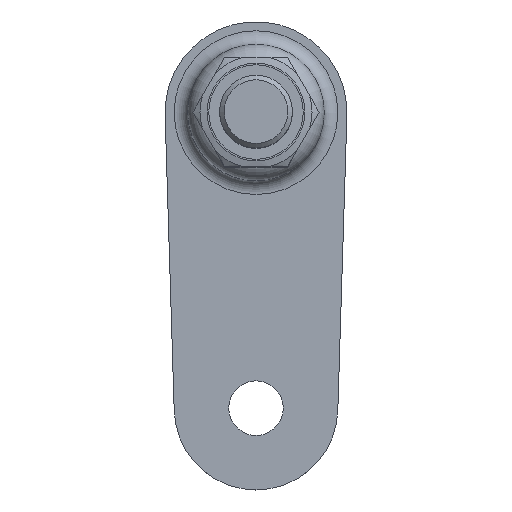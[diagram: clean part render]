
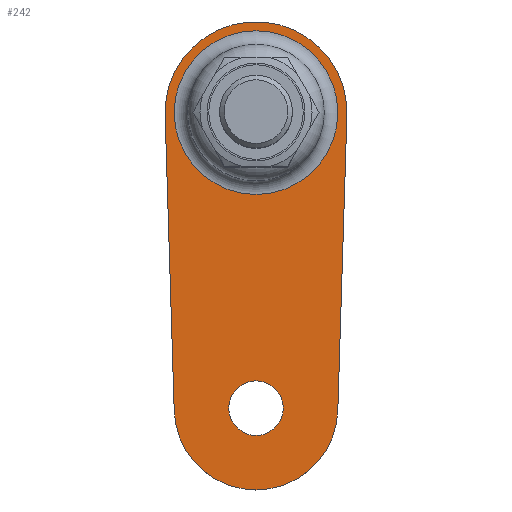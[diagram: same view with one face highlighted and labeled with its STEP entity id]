
A CAD part, top view. The second image highlights one B-rep face of the part: STEP entity #242.
In plain terms, the highlighted planar face has unit normal (0, 0, 1).
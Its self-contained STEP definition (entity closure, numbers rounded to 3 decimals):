
#242=ADVANCED_FACE('',(#503,#504,#505),#506,.T.);
#503=FACE_BOUND('',#801,.T.);
#504=FACE_OUTER_BOUND('',#802,.T.);
#505=FACE_BOUND('',#803,.T.);
#506=PLANE('',#804);
#801=EDGE_LOOP('',(#1320));
#802=EDGE_LOOP('',(#1321,#1322,#1323,#1324));
#803=EDGE_LOOP('',(#1325));
#804=AXIS2_PLACEMENT_3D('',#1326,#1327,#1328);
#1320=ORIENTED_EDGE('',*,*,#1809,.T.);
#1321=ORIENTED_EDGE('',*,*,#1810,.F.);
#1322=ORIENTED_EDGE('',*,*,#1803,.T.);
#1323=ORIENTED_EDGE('',*,*,#1807,.T.);
#1324=ORIENTED_EDGE('',*,*,#1703,.T.);
#1325=ORIENTED_EDGE('',*,*,#1811,.T.);
#1326=CARTESIAN_POINT('',(63.911,-67.09,55.906));
#1327=DIRECTION('',(0.0,0.,1.0));
#1328=DIRECTION('',(0.0,-1.0,0.));
#1703=EDGE_CURVE('',#2006,#2004,#2007,.T.);
#1803=EDGE_CURVE('',#2152,#2150,#2153,.T.);
#1807=EDGE_CURVE('',#2150,#2006,#2157,.T.);
#1809=EDGE_CURVE('',#2159,#2159,#2160,.T.);
#1810=EDGE_CURVE('',#2152,#2004,#2161,.T.);
#1811=EDGE_CURVE('',#2162,#2162,#2163,.T.);
#2004=VERTEX_POINT('',#2521);
#2006=VERTEX_POINT('',#2524);
#2007=LINE('',#2525,#2526);
#2150=VERTEX_POINT('',#2831);
#2152=VERTEX_POINT('',#2834);
#2153=LINE('',#2835,#2836);
#2157=CIRCLE('',#2841,18.0);
#2159=VERTEX_POINT('',#2843);
#2160=CIRCLE('',#2844,18.0);
#2161=CIRCLE('',#2845,20.0);
#2162=VERTEX_POINT('',#2846);
#2163=CIRCLE('',#2847,6.0);
#2521=CARTESIAN_POINT('',(63.893,-67.929,55.906));
#2524=CARTESIAN_POINT('',(61.902,-132.644,55.906));
#2525=CARTESIAN_POINT('',(61.902,-132.644,55.906));
#2526=VECTOR('',#3208,1.0);
#2831=CARTESIAN_POINT('',(25.919,-132.644,55.906));
#2834=CARTESIAN_POINT('',(23.928,-67.929,55.906));
#2835=CARTESIAN_POINT('',(23.928,-67.929,55.906));
#2836=VECTOR('',#3278,1.0);
#2841=AXIS2_PLACEMENT_3D('',#3283,#3284,#3285);
#2843=CARTESIAN_POINT('',(43.911,-49.09,55.906));
#2844=AXIS2_PLACEMENT_3D('',#3286,#3287,#3288);
#2845=AXIS2_PLACEMENT_3D('',#3289,#3290,#3291);
#2846=CARTESIAN_POINT('',(37.911,-132.09,55.906));
#2847=AXIS2_PLACEMENT_3D('',#3292,#3293,#3294);
#3208=DIRECTION('',(0.031,1.,0.0));
#3278=DIRECTION('',(0.031,-1.,0.0));
#3283=CARTESIAN_POINT('',(43.911,-132.09,55.906));
#3284=DIRECTION('',(0.0,0.0,1.0));
#3285=DIRECTION('',(1.0,0.0,0.0));
#3286=CARTESIAN_POINT('',(43.911,-67.09,55.906));
#3287=DIRECTION('',(0.0,0.,-1.0));
#3288=DIRECTION('',(0.0,1.0,0.));
#3289=CARTESIAN_POINT('',(43.911,-67.09,55.906));
#3290=DIRECTION('',(0.0,0.,-1.0));
#3291=DIRECTION('',(0.0,1.0,0.));
#3292=CARTESIAN_POINT('',(43.911,-132.09,55.906));
#3293=DIRECTION('',(0.0,0.0,-1.0));
#3294=DIRECTION('',(-1.0,0.0,0.0));
